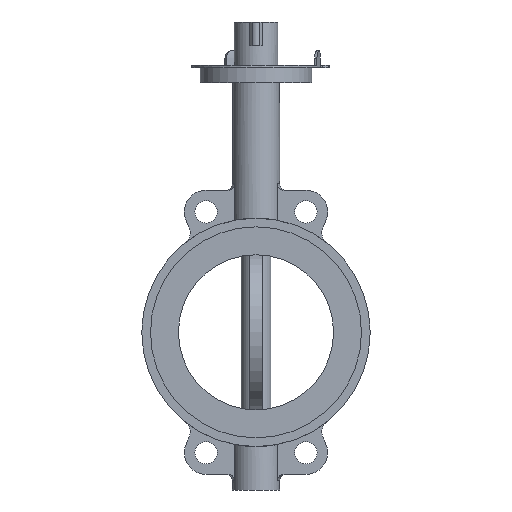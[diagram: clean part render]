
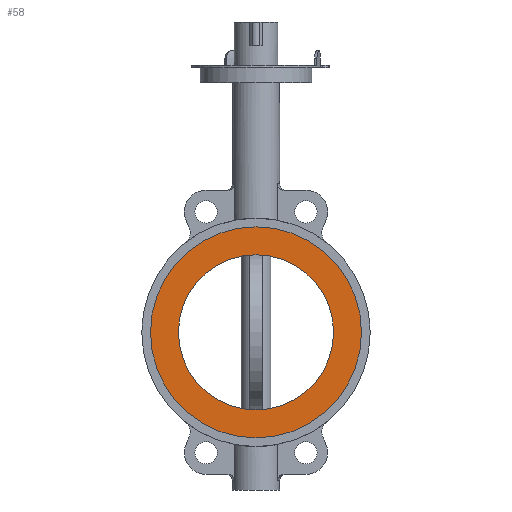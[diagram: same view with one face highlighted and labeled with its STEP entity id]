
A CAD part, left-side view. The second image highlights one B-rep face of the part: STEP entity #58.
In plain terms, the highlighted planar face has unit normal (-1, 0, 0).
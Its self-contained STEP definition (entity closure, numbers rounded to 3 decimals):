
#58=ADVANCED_FACE('',(#6889,#6891),#6893,.F.);
#6889=FACE_BOUND('',#6890,.T.);
#6890=EDGE_LOOP('',(#12332));
#6891=FACE_BOUND('',#6892,.T.);
#6892=EDGE_LOOP('',(#12333));
#6893=PLANE('',#6894);
#6894=AXIS2_PLACEMENT_3D('',#6895,#6896,#6897);
#6895=CARTESIAN_POINT('',(-28.,0.,0.));
#6896=DIRECTION('',(1.,0.,0.));
#6897=DIRECTION('',(0.,1.,0.));
#12332=ORIENTED_EDGE('',*,*,#16729,.T.);
#12333=ORIENTED_EDGE('',*,*,#16730,.T.);
#16729=EDGE_CURVE('',#18959,#18959,#18960,.F.);
#16730=EDGE_CURVE('',#18961,#18961,#18962,.T.);
#18959=VERTEX_POINT('',#22640);
#18960=CIRCLE('',#22641,85.);
#18961=VERTEX_POINT('',#22645);
#18962=CIRCLE('',#22646,62.5);
#22640=CARTESIAN_POINT('',(-28.,85.,0.));
#22641=AXIS2_PLACEMENT_3D('',#22642,#22643,#22644);
#22642=CARTESIAN_POINT('',(-28.,0.,0.));
#22643=DIRECTION('',(1.,0.,0.));
#22644=DIRECTION('',(0.,1.,0.));
#22645=CARTESIAN_POINT('',(-28.,62.5,0.));
#22646=AXIS2_PLACEMENT_3D('',#22647,#22648,#22649);
#22647=CARTESIAN_POINT('',(-28.,0.,0.));
#22648=DIRECTION('',(1.,0.,0.));
#22649=DIRECTION('',(0.,1.,0.));
